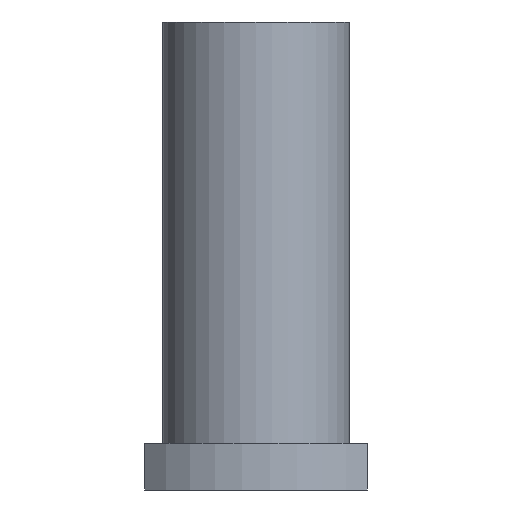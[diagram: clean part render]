
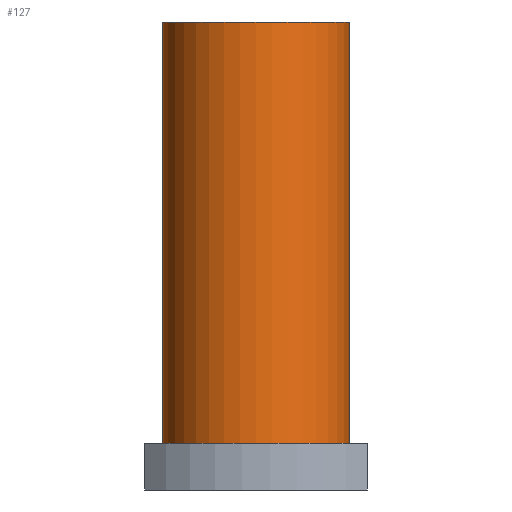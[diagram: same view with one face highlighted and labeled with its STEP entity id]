
A CAD part, front view. The second image highlights one B-rep face of the part: STEP entity #127.
In plain terms, the highlighted cylindrical face has radius 16 mm (diameter 32 mm), a partial arc.
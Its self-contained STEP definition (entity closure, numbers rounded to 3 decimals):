
#86=CARTESIAN_POINT('',(14.,-13.954,0.0));
#87=DIRECTION('',(0.0,0.0,1.0));
#88=DIRECTION('',(-1.0,0.0,0.0));
#89=AXIS2_PLACEMENT_3D('',#86,#87,#88);
#90=CYLINDRICAL_SURFACE('',#89,16.0);
#91=CARTESIAN_POINT('',(-2.,-13.954,8.0));
#92=VERTEX_POINT('',#91);
#93=CARTESIAN_POINT('',(-2.,-13.954,80.0));
#94=VERTEX_POINT('',#93);
#95=CARTESIAN_POINT('',(-2.,-13.954,8.0));
#96=DIRECTION('',(0.0,0.0,1.0));
#97=VECTOR('',#96,72.0);
#98=LINE('',#95,#97);
#99=EDGE_CURVE('',#92,#94,#98,.T.);
#100=ORIENTED_EDGE('',*,*,#99,.F.);
#101=CARTESIAN_POINT('',(30.,-13.954,8.0));
#102=VERTEX_POINT('',#101);
#103=CARTESIAN_POINT('',(14.,-13.954,8.0));
#104=DIRECTION('',(0.0,0.0,-1.0));
#105=DIRECTION('',(-1.0,0.0,0.0));
#106=AXIS2_PLACEMENT_3D('',#103,#104,#105);
#107=CIRCLE('',#106,16.0);
#108=EDGE_CURVE('',#102,#92,#107,.T.);
#109=ORIENTED_EDGE('',*,*,#108,.F.);
#110=CARTESIAN_POINT('',(30.,-13.954,80.0));
#111=VERTEX_POINT('',#110);
#112=CARTESIAN_POINT('',(30.,-13.954,80.0));
#113=DIRECTION('',(0.0,0.0,-1.0));
#114=VECTOR('',#113,72.0);
#115=LINE('',#112,#114);
#116=EDGE_CURVE('',#111,#102,#115,.T.);
#117=ORIENTED_EDGE('',*,*,#116,.F.);
#118=CARTESIAN_POINT('',(14.,-13.954,80.0));
#119=DIRECTION('',(0.0,0.0,-1.0));
#120=DIRECTION('',(-1.0,0.0,0.0));
#121=AXIS2_PLACEMENT_3D('',#118,#119,#120);
#122=CIRCLE('',#121,16.0);
#123=EDGE_CURVE('',#111,#94,#122,.T.);
#124=ORIENTED_EDGE('',*,*,#123,.T.);
#125=EDGE_LOOP('',(#100,#109,#117,#124));
#126=FACE_OUTER_BOUND('',#125,.T.);
#127=ADVANCED_FACE('',(#126),#90,.T.);
